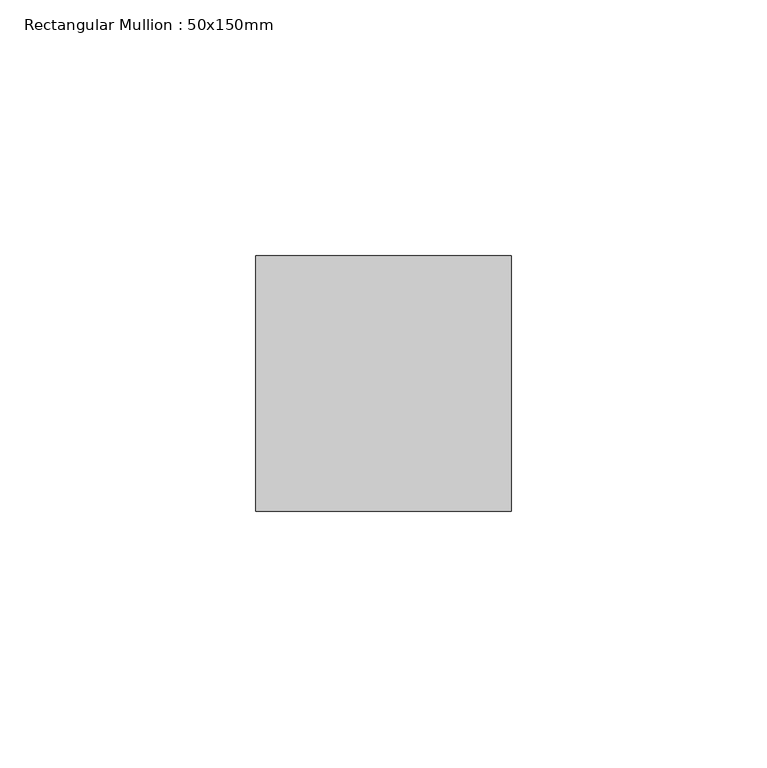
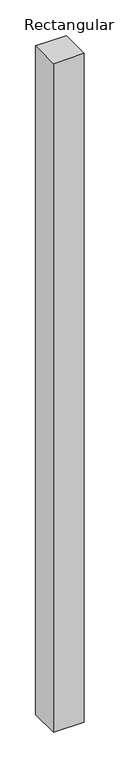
"""IFC4 building model written with IfcOpenShell, lengths in millimetres: member geometry, Rectangular Mullion : 50x150mm."""

from ifc_helpers import new_model, si_unit, frame, origin, place, context, project, spatial, polyline, outline, extrude, source, transform, mapped, element, save


def rectangular_mullion_50x150mm_25fa57b6(model_context):
    return source(origin(), model_context, "Body", "SweptSolid", [
        extrude(outline(polyline([(0.0, 25.0), (0.0, -25.0), (-50.0, -25.0), (-50.0, 25.0), (0.0, 25.0)])), frame((0.0, 0.0, -1143.0295683), z_axis=(0.0, 0.0, 1.0), x_axis=(1.0, 0.0, 0.0)), (0.0, 0.0, 1.0), 1143.0295683),
    ])


if __name__ == "__main__":
    model = new_model("IFC4")
    model_context = context("Model", 3, world=origin())
    ifc_project = project(units=[si_unit("LENGTHUNIT", "METRE", prefix="MILLI")], contexts=[model_context])
    site = spatial("IfcSite", under=ifc_project)
    building = spatial("IfcBuilding", under=site)
    placement = place(None, origin())
    rectangular_mullion_50x150mm_shape = rectangular_mullion_50x150mm_25fa57b6(model_context)
    element("IfcMember", 1, ObjectType="Rectangular Mullion : 50x150mm", at=placement, inside=building, context=model_context, shape_type="MappedRepresentation", body=[
        mapped(rectangular_mullion_50x150mm_shape, transform((0.0, 0.0, 0.0), x_axis=(1.0, 0.0, 0.0), y_axis=(0.0, 1.0, 0.0), z_axis=(0.0, 0.0, 1.0))),
    ])
    save(model, "model.ifc")
